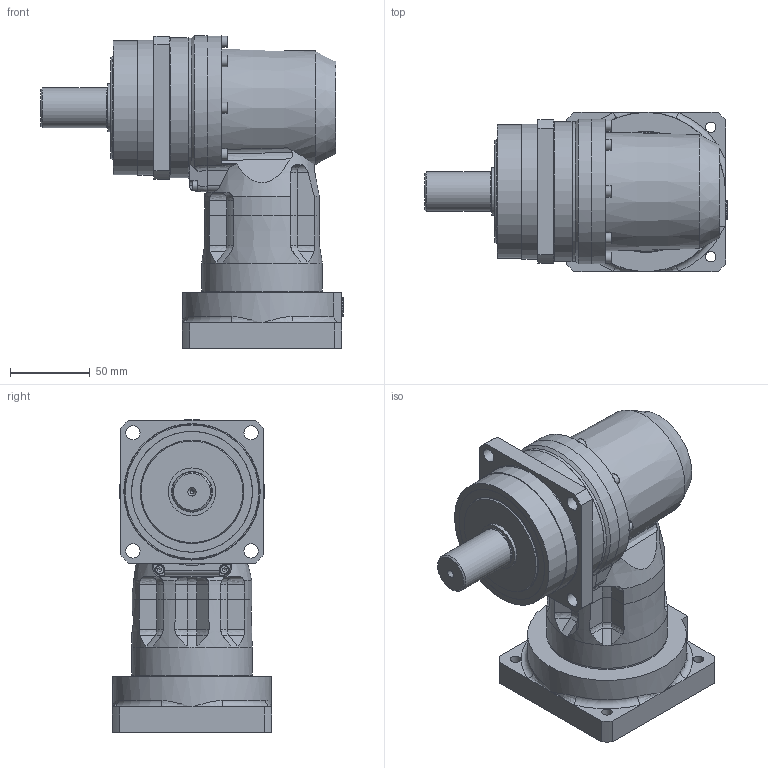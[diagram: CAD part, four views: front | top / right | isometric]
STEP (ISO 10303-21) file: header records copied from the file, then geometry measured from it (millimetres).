
FILE_DESCRIPTION(/* description */ ('ANFX-PK120N-2-7B'),/* implementation_level */ '2;1');
FILE_NAME(/* name */ 'C:\Users\ADMINI~1\AppData\Local\Temp\MM582474_ANFX-PK120N-2-7B.stp',/* time_stamp */ '2018-07-10T14:50:32+02:00',/* author */ ('Max'),/* organization */ (''),/* preprocessor_version */ 'ST-DEVELOPER v17',/* originating_system */ 'Autodesk Inventor 2018',/* authorisation */ '');
FILE_SCHEMA (('AUTOMOTIVE_DESIGN { 1 0 10303 214 3 1 1 }'));
Length unit declared in the file: millimetre
Products named in the file (26): MM581710; MMBG0004105; MMCM057LG; MMAF787LG; M204639; M204639-1; M204639-2; M204639-3; M204639-4; MMAP6499G; 009M005R014NG; M530A30508---G; 211458; 205792; 200409; MMBG0004078; MMCL445LG; MMCM226LG; MAX4840G; MAW8381G; MMBG0004116; MMAF790LG; 203366; MMCH633LG; MAW8386G; 200458
Assembly tree (67 placements, depth 4):
  MM581710
    MMBG0004105
      MMCM057LG
      MMAF787LG
      M204639
        M204639-1
        M204639-2
        M204639-3  x2
        M204639-4  x12
      MMAP6499G
      009M005R014NG
      M530A30508---G
      211458  x2
      205792  x8
      200409  x7
    MMBG0004078
      MMCL445LG
      MMCM226LG
      MAX4840G
      MAW8381G
    MMBG0004116
      MMAF790LG
      203366  x10
    MMCH633LG
    MAW8386G
    200458  x8
Bounding box: 190 x 100 x 196.54 mm (x, y, z)
Volume: 793544.4 mm3; surface area: 270209.1 mm2
Topology: 105 solids, 105 shells, 1169 faces, 3225 edges, 2254 vertices
Faces by surface type: plane 551, cylinder 289, cone 138, torus 79, bspline 59, sphere 53
Full cylindrical faces by diameter (mm): 2 x1, 2.459 x10, 2.5 x1, 3 x10, 3.242 x15, 3.4 x10, 4 x15, 4.134 x9, 4.5 x15, 5 x9, 5.5 x19, 6.5 x8, 6.647 x4, 7 x15, 8.5 x9, 8.566 x2, 9 x4, 9.8 x1, 10 x1, 10.2 x1, 10.4 x1, 12 x1, 14 x1, 15 x2, 19.5 x1, 24 x1, 25 x1, 28.6 x1, 29 x1, 29.4 x1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
Entity records: 26118 total; most frequent: CARTESIAN_POINT 5998, DIRECTION 4289, ORIENTED_EDGE 3770, EDGE_CURVE 1885, AXIS2_PLACEMENT_3D 1821, VERTEX_POINT 1397, CIRCLE 1037, EDGE_LOOP 942
